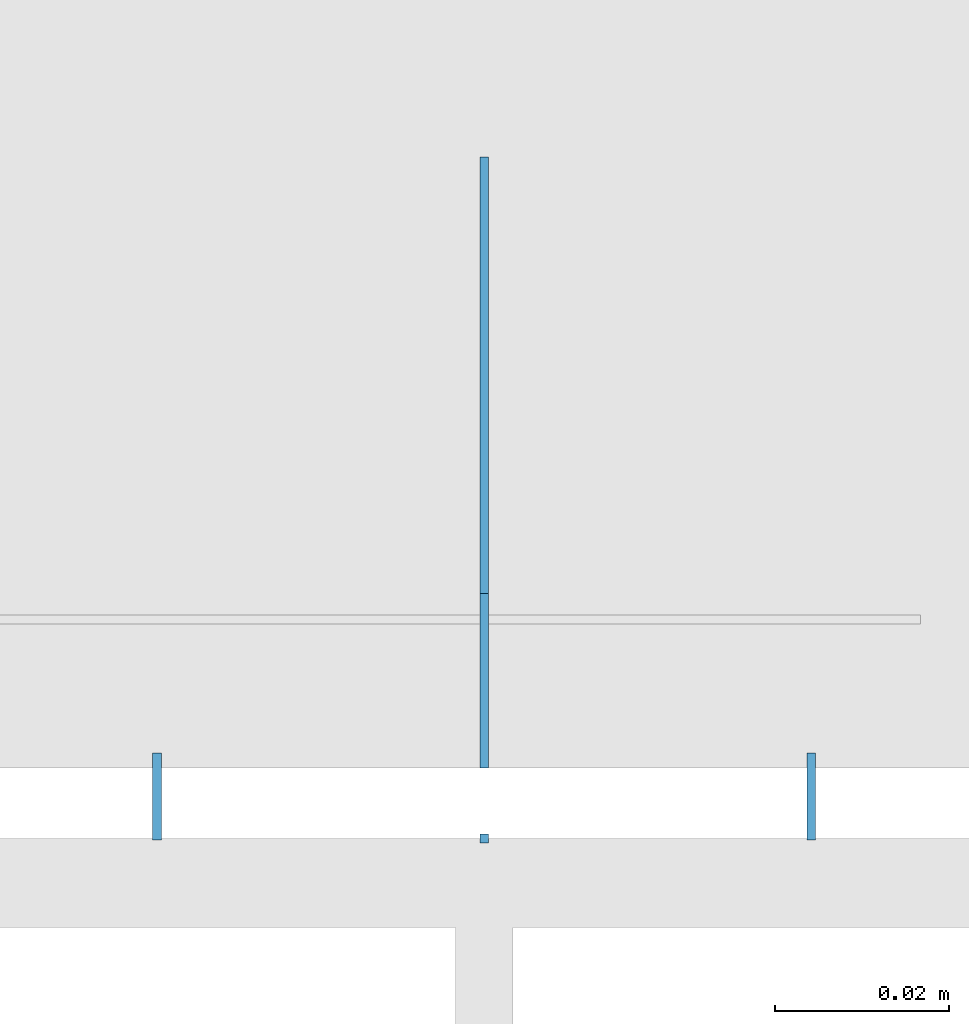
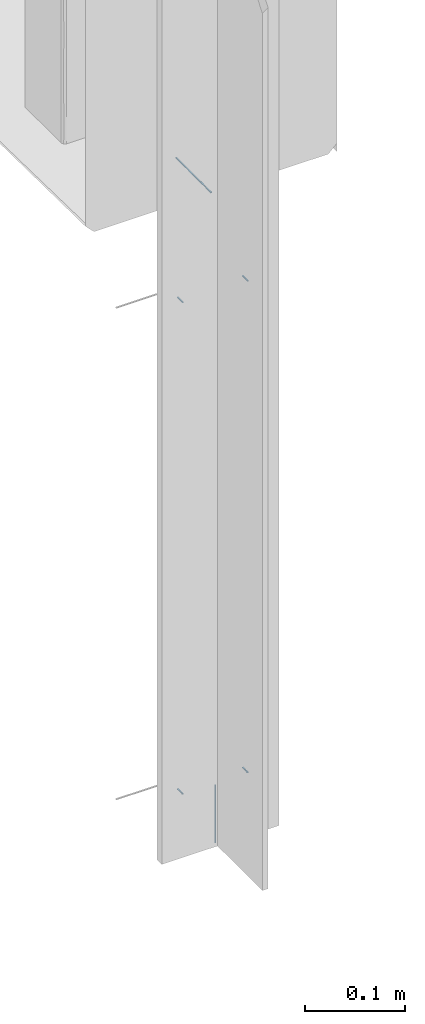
# One storey, part 59 of 186: 7 beams.
"""IFC4X3_ADD2 building model written with IfcOpenShell, lengths in millimetres."""

from ifc_helpers import new_model, si_unit, direction, frame, frame_2d, origin_with_axes, place, context, subcontext, project, spatial, rectangle, extrude, material, element, save


model = new_model("IFC4X3_ADD2")

# Units and contexts
model_context = context("Model", 3, precision=1e-05, world=origin_with_axes(), true_north=direction((0.0, 1.0)))
body_context = subcontext(model_context, "Body", "Model", "MODEL_VIEW")
ifc_project = project(units=[si_unit("LENGTHUNIT", "METRE", prefix="MILLI"), si_unit("AREAUNIT", "SQUARE_METRE"), si_unit("VOLUMEUNIT", "CUBIC_METRE"), si_unit("PLANEANGLEUNIT", "RADIAN"), si_unit("TIMEUNIT", "SECOND"), si_unit("MASSUNIT", "GRAM")], contexts=[model_context])

# Site, building, storey
site_placement = place(None, origin_with_axes())
site = spatial("IfcSite", under=ifc_project, at=site_placement, Name="Site", CompositionType="ELEMENT")
building_placement = place(site_placement, origin_with_axes())
building = spatial("IfcBuilding", under=site, at=building_placement, Name="IFC Building Story")
storey_placement = place(building_placement, frame((0.0, 0.0, 4370.0), z_axis=(0.0, 0.0, 1.0), x_axis=(1.0, 0.0, 0.0)))
storey = spatial("IfcBuildingStorey", under=building, at=storey_placement, Name="ETAGE 10 (1)", Elevation=4370.0)

# Beams
ifc_material_1 = material(Name="STEEL/Accessory_invisible")
beam_1_placement = place(storey_placement, frame((16556.6888269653, 11.8999637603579, 3352.0), z_axis=(-1.0, 0.0, 0.0), x_axis=(0.0, 0.0, 1.0)))
element("IfcBeam", 1, at=beam_1_placement, inside=storey, material=ifc_material_1, Name="ZW1", ObjectType="1*1 10", context=body_context, shape_type="SweptSolid", body=[
    extrude(rectangle(XDim=70.0000000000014, YDim=1.0, at=frame_2d((0.0, 5.95523630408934e-12), x_axis=(1.0, 0.0))), origin_with_axes(), (0.0, 0.0, 1.0), 1.0),
])
ifc_material_2 = material(Name="STEEL/Accessory_invisible 261")
beam_2_placement = place(storey_placement, frame((16555.689, 30.0002483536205, 4105.40274340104), z_axis=(1.0, 0.0, 0.0), x_axis=(0.0, 0.0, -1.0)))
element("IfcBeam", 2, at=beam_2_placement, inside=storey, material=ifc_material_2, Name="PR10", ObjectType="1*1 13", context=body_context, shape_type="SweptSolid", body=[
    extrude(rectangle(XDim=0.9999999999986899, YDim=20.0, at=frame_2d((0.0, 5.95523630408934e-12), x_axis=(1.0, 0.0))), origin_with_axes(), (0.0, 0.0, 1.0), 1.0),
])
for number, where, z_axis, x_axis, name in (
    (3, (16518.1888269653, 16.6999637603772, 3389.5), (1.0, 0.0, 0.0), (0.0, 0.0, -1.0), "MP21"),
    (4, (16518.1888269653, 16.6999637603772, 3989.5), (1.0, 0.0, 0.0), (0.0, 0.0, -1.0), "MP21"),
    (5, (16593.1888269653, 16.6999637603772, 3989.5), (1.0, 0.0, 0.0), (0.0, 0.0, -1.0), "MP21"),
    (6, (16593.1888269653, 16.6999637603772, 3389.5), (1.0, 0.0, 0.0), (0.0, 0.0, -1.0), "MP21"),
):
    element("IfcBeam", number, at=place(storey_placement, frame(where, z_axis=z_axis, x_axis=x_axis)), inside=storey, material=ifc_material_1, Name=name, ObjectType="1*1 9", context=body_context, shape_type="SweptSolid", body=[
        extrude(rectangle(XDim=0.9999999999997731, YDim=10.0, at=frame_2d((0.0, 5.95523630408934e-12), x_axis=(1.0, 0.0))), origin_with_axes(), (0.0, 0.0, 1.0), 1.0),
    ])
beam_3_placement = place(storey_placement, frame((16555.689, 65.00024835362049, 4105.40274340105), z_axis=(1.0, 0.0, 0.0), x_axis=(0.0, 0.0, -1.0)))
element("IfcBeam", 7, at=beam_3_placement, inside=storey, material=ifc_material_1, Name="ZW1", ObjectType="1*1 14", context=body_context, shape_type="SweptSolid", body=[
    extrude(rectangle(XDim=0.9999999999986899, YDim=50.0, at=frame_2d((0.0, 5.95523630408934e-12), x_axis=(1.0, 0.0))), origin_with_axes(), (0.0, 0.0, 1.0), 1.0),
])

save(model, "model.ifc")
